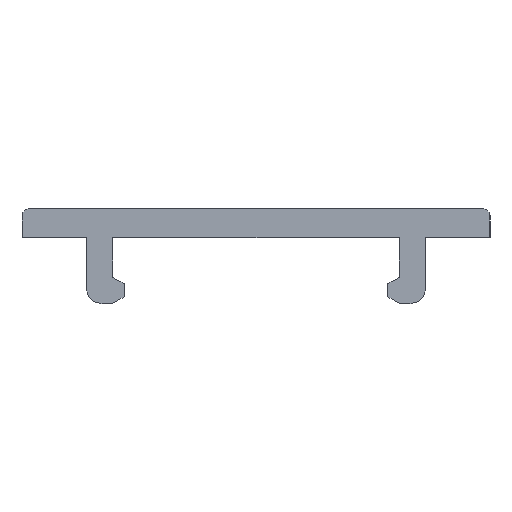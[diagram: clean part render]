
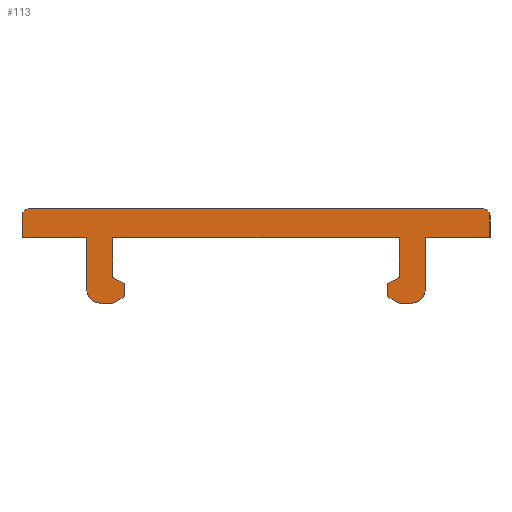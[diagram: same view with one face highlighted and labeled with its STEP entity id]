
A CAD part, left-side view. The second image highlights one B-rep face of the part: STEP entity #113.
In plain terms, the highlighted planar face has unit normal (-1, 0, 0).
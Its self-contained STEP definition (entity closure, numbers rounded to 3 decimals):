
#1 = DIRECTION ( 'NONE',  ( 1., 0., 0. ) ) ;
#2 = CIRCLE ( 'NONE', #462, 1. ) ;
#5 = CARTESIAN_POINT ( 'NONE',  ( 0., 9.8, -2. ) ) ;
#7 = CARTESIAN_POINT ( 'NONE',  ( 0., -15.5, -0.5 ) ) ;
#9 = FACE_OUTER_BOUND ( 'NONE', #425, .T. ) ;
#11 = AXIS2_PLACEMENT_3D ( 'NONE', #100, #104, #428 ) ;
#14 = DIRECTION ( 'NONE',  ( 1., 0., 0. ) ) ;
#15 = ORIENTED_EDGE ( 'NONE', *, *, #123, .F. ) ;
#16 = LINE ( 'NONE', #412, #557 ) ;
#25 = ORIENTED_EDGE ( 'NONE', *, *, #217, .F. ) ;
#26 = DIRECTION ( 'NONE',  ( 0., 0., -1. ) ) ;
#29 = ORIENTED_EDGE ( 'NONE', *, *, #354, .F. ) ;
#31 = EDGE_CURVE ( 'NONE', #283, #186, #532, .T. ) ;
#38 = VERTEX_POINT ( 'NONE', #301 ) ;
#40 = CARTESIAN_POINT ( 'NONE',  ( 0., 16., -2. ) ) ;
#43 = DIRECTION ( 'NONE',  ( 0., 0., 1. ) ) ;
#52 = DIRECTION ( 'NONE',  ( 0., 0., -1. ) ) ;
#55 = CIRCLE ( 'NONE', #560, 0.9 ) ;
#63 = ORIENTED_EDGE ( 'NONE', *, *, #286, .F. ) ;
#65 = CARTESIAN_POINT ( 'NONE',  ( 0., 16., -0.5 ) ) ;
#72 = VERTEX_POINT ( 'NONE', #644 ) ;
#77 = ORIENTED_EDGE ( 'NONE', *, *, #645, .F. ) ;
#82 = DIRECTION ( 'NONE',  ( 0., 0., -1. ) ) ;
#86 = VERTEX_POINT ( 'NONE', #483 ) ;
#88 = LINE ( 'NONE', #539, #278 ) ;
#93 = VERTEX_POINT ( 'NONE', #137 ) ;
#97 = EDGE_CURVE ( 'NONE', #178, #440, #184, .T. ) ;
#100 = CARTESIAN_POINT ( 'NONE',  ( 0., 9.8, -5.6 ) ) ;
#104 = DIRECTION ( 'NONE',  ( 1., 0., 0. ) ) ;
#108 = VECTOR ( 'NONE', #676, 1000. ) ;
#113 = ADVANCED_FACE ( 'NONE', ( #9 ), #516, .F. ) ;
#115 = CARTESIAN_POINT ( 'NONE',  ( 0., 9.8, -2. ) ) ;
#121 = LINE ( 'NONE', #469, #108 ) ;
#123 = EDGE_CURVE ( 'NONE', #359, #178, #487, .T. ) ;
#124 = ORIENTED_EDGE ( 'NONE', *, *, #391, .F. ) ;
#128 = ORIENTED_EDGE ( 'NONE', *, *, #202, .F. ) ;
#129 = LINE ( 'NONE', #612, #674 ) ;
#133 = VECTOR ( 'NONE', #26, 1000. ) ;
#134 = EDGE_CURVE ( 'NONE', #459, #534, #2, .T. ) ;
#137 = CARTESIAN_POINT ( 'NONE',  ( 0., 15.5, 0. ) ) ;
#139 = VECTOR ( 'NONE', #617, 1000. ) ;
#146 = DIRECTION ( 'NONE',  ( 0., 1., 0. ) ) ;
#147 = VERTEX_POINT ( 'NONE', #616 ) ;
#156 = LINE ( 'NONE', #254, #161 ) ;
#157 = CARTESIAN_POINT ( 'NONE',  ( 0., -16., -2. ) ) ;
#161 = VECTOR ( 'NONE', #513, 1000. ) ;
#164 = VERTEX_POINT ( 'NONE', #671 ) ;
#167 = CARTESIAN_POINT ( 'NONE',  ( 0., 16., -0.5 ) ) ;
#178 = VERTEX_POINT ( 'NONE', #572 ) ;
#180 = CARTESIAN_POINT ( 'NONE',  ( 0., 11.6, -2. ) ) ;
#184 = LINE ( 'NONE', #65, #220 ) ;
#186 = VERTEX_POINT ( 'NONE', #157 ) ;
#192 = EDGE_CURVE ( 'NONE', #186, #541, #201, .T. ) ;
#201 = LINE ( 'NONE', #468, #449 ) ;
#202 = EDGE_CURVE ( 'NONE', #72, #147, #290, .T. ) ;
#217 = EDGE_CURVE ( 'NONE', #86, #164, #55, .T. ) ;
#218 = CARTESIAN_POINT ( 'NONE',  ( 0., 15.5, -0.5 ) ) ;
#220 = VECTOR ( 'NONE', #407, 1000. ) ;
#222 = CARTESIAN_POINT ( 'NONE',  ( 0., -16., -0.5 ) ) ;
#243 = ORIENTED_EDGE ( 'NONE', *, *, #31, .F. ) ;
#254 = CARTESIAN_POINT ( 'NONE',  ( 0., -15.5, 0. ) ) ;
#258 = VECTOR ( 'NONE', #547, 1000. ) ;
#259 = EDGE_CURVE ( 'NONE', #534, #359, #403, .T. ) ;
#260 = ORIENTED_EDGE ( 'NONE', *, *, #259, .F. ) ;
#261 = CARTESIAN_POINT ( 'NONE',  ( 0., 9.8, -6.5 ) ) ;
#264 = DIRECTION ( 'NONE',  ( 1., 0., 0. ) ) ;
#273 = DIRECTION ( 'NONE',  ( 0., 0., -1. ) ) ;
#278 = VECTOR ( 'NONE', #389, 1000. ) ;
#280 = DIRECTION ( 'NONE',  ( 1., 0., 0. ) ) ;
#283 = VERTEX_POINT ( 'NONE', #222 ) ;
#285 = ORIENTED_EDGE ( 'NONE', *, *, #192, .F. ) ;
#286 = EDGE_CURVE ( 'NONE', #440, #93, #456, .T. ) ;
#290 = CIRCLE ( 'NONE', #569, 1. ) ;
#301 = CARTESIAN_POINT ( 'NONE',  ( 0., -15.5, 0. ) ) ;
#313 = CARTESIAN_POINT ( 'NONE',  ( 0., 10.6, -5.5 ) ) ;
#315 = CIRCLE ( 'NONE', #367, 0.5 ) ;
#326 = CARTESIAN_POINT ( 'NONE',  ( 0., -9.8, -2. ) ) ;
#332 = EDGE_CURVE ( 'NONE', #447, #564, #448, .T. ) ;
#347 = ORIENTED_EDGE ( 'NONE', *, *, #637, .F. ) ;
#354 = EDGE_CURVE ( 'NONE', #38, #283, #315, .T. ) ;
#359 = VERTEX_POINT ( 'NONE', #590 ) ;
#362 = DIRECTION ( 'NONE',  ( 0., 1., 0. ) ) ;
#365 = CARTESIAN_POINT ( 'NONE',  ( 0., -10.6, -5.5 ) ) ;
#367 = AXIS2_PLACEMENT_3D ( 'NONE', #7, #14, #629 ) ;
#369 = DIRECTION ( 'NONE',  ( 0., 1., 0. ) ) ;
#371 = CARTESIAN_POINT ( 'NONE',  ( 0., -11.6, -2. ) ) ;
#374 = DIRECTION ( 'NONE',  ( 1., 0., 0. ) ) ;
#389 = DIRECTION ( 'NONE',  ( 0., 1., 0. ) ) ;
#391 = EDGE_CURVE ( 'NONE', #589, #459, #88, .T. ) ;
#395 = VECTOR ( 'NONE', #146, 1000. ) ;
#397 = AXIS2_PLACEMENT_3D ( 'NONE', #218, #280, #538 ) ;
#403 = LINE ( 'NONE', #180, #258 ) ;
#406 = EDGE_CURVE ( 'NONE', #564, #589, #551, .T. ) ;
#407 = DIRECTION ( 'NONE',  ( 0., 0., 1. ) ) ;
#409 = ORIENTED_EDGE ( 'NONE', *, *, #591, .F. ) ;
#412 = CARTESIAN_POINT ( 'NONE',  ( 0., -9.8, -2. ) ) ;
#415 = CARTESIAN_POINT ( 'NONE',  ( 0., 9.8, -4.7 ) ) ;
#425 = EDGE_LOOP ( 'NONE', ( #285, #243, #29, #77, #63, #542, #15, #260, #521, #124, #491, #451, #604, #495, #25, #409, #128, #347 ) ) ;
#428 = DIRECTION ( 'NONE',  ( 0., 0., -1. ) ) ;
#430 = LINE ( 'NONE', #570, #139 ) ;
#440 = VERTEX_POINT ( 'NONE', #167 ) ;
#447 = VERTEX_POINT ( 'NONE', #5 ) ;
#448 = LINE ( 'NONE', #115, #470 ) ;
#449 = VECTOR ( 'NONE', #369, 1000. ) ;
#451 = ORIENTED_EDGE ( 'NONE', *, *, #332, .F. ) ;
#456 = CIRCLE ( 'NONE', #397, 0.5 ) ;
#459 = VERTEX_POINT ( 'NONE', #621 ) ;
#462 = AXIS2_PLACEMENT_3D ( 'NONE', #313, #264, #43 ) ;
#468 = CARTESIAN_POINT ( 'NONE',  ( 0., -16., -2. ) ) ;
#469 = CARTESIAN_POINT ( 'NONE',  ( 0., -9.8, -2. ) ) ;
#470 = VECTOR ( 'NONE', #52, 1000. ) ;
#476 = DIRECTION ( 'NONE',  ( 0., 0., -1. ) ) ;
#483 = CARTESIAN_POINT ( 'NONE',  ( 0., -9.8, -6.5 ) ) ;
#487 = LINE ( 'NONE', #40, #395 ) ;
#491 = ORIENTED_EDGE ( 'NONE', *, *, #406, .F. ) ;
#495 = ORIENTED_EDGE ( 'NONE', *, *, #525, .F. ) ;
#502 = VERTEX_POINT ( 'NONE', #326 ) ;
#513 = DIRECTION ( 'NONE',  ( 0., -1., 0. ) ) ;
#516 = PLANE ( 'NONE',  #653 ) ;
#521 = ORIENTED_EDGE ( 'NONE', *, *, #134, .F. ) ;
#525 = EDGE_CURVE ( 'NONE', #164, #502, #121, .T. ) ;
#532 = LINE ( 'NONE', #654, #133 ) ;
#534 = VERTEX_POINT ( 'NONE', #628 ) ;
#538 = DIRECTION ( 'NONE',  ( 0., 0., 1. ) ) ;
#539 = CARTESIAN_POINT ( 'NONE',  ( 0., 10.6, -6.5 ) ) ;
#541 = VERTEX_POINT ( 'NONE', #371 ) ;
#542 = ORIENTED_EDGE ( 'NONE', *, *, #97, .F. ) ;
#547 = DIRECTION ( 'NONE',  ( 0., 0., 1. ) ) ;
#551 = CIRCLE ( 'NONE', #11, 0.9 ) ;
#557 = VECTOR ( 'NONE', #362, 1000. ) ;
#560 = AXIS2_PLACEMENT_3D ( 'NONE', #579, #1, #627 ) ;
#562 = DIRECTION ( 'NONE',  ( 1., 0., 0. ) ) ;
#564 = VERTEX_POINT ( 'NONE', #415 ) ;
#569 = AXIS2_PLACEMENT_3D ( 'NONE', #623, #374, #273 ) ;
#570 = CARTESIAN_POINT ( 'NONE',  ( 0., -10.6, -6.5 ) ) ;
#572 = CARTESIAN_POINT ( 'NONE',  ( 0., 16., -2. ) ) ;
#579 = CARTESIAN_POINT ( 'NONE',  ( 0., -9.8, -5.6 ) ) ;
#589 = VERTEX_POINT ( 'NONE', #261 ) ;
#590 = CARTESIAN_POINT ( 'NONE',  ( 0., 11.6, -2. ) ) ;
#591 = EDGE_CURVE ( 'NONE', #147, #86, #430, .T. ) ;
#604 = ORIENTED_EDGE ( 'NONE', *, *, #642, .F. ) ;
#612 = CARTESIAN_POINT ( 'NONE',  ( 0., -11.6, -2. ) ) ;
#616 = CARTESIAN_POINT ( 'NONE',  ( 0., -10.6, -6.5 ) ) ;
#617 = DIRECTION ( 'NONE',  ( 0., 1., 0. ) ) ;
#621 = CARTESIAN_POINT ( 'NONE',  ( 0., 10.6, -6.5 ) ) ;
#623 = CARTESIAN_POINT ( 'NONE',  ( 0., -10.6, -5.5 ) ) ;
#627 = DIRECTION ( 'NONE',  ( 0., 0., 1. ) ) ;
#628 = CARTESIAN_POINT ( 'NONE',  ( 0., 11.6, -5.5 ) ) ;
#629 = DIRECTION ( 'NONE',  ( 0., 0., -1. ) ) ;
#637 = EDGE_CURVE ( 'NONE', #541, #72, #129, .T. ) ;
#642 = EDGE_CURVE ( 'NONE', #502, #447, #16, .T. ) ;
#644 = CARTESIAN_POINT ( 'NONE',  ( 0., -11.6, -5.5 ) ) ;
#645 = EDGE_CURVE ( 'NONE', #93, #38, #156, .T. ) ;
#653 = AXIS2_PLACEMENT_3D ( 'NONE', #365, #562, #476 ) ;
#654 = CARTESIAN_POINT ( 'NONE',  ( 0., -16., -0.5 ) ) ;
#671 = CARTESIAN_POINT ( 'NONE',  ( 0., -9.8, -4.7 ) ) ;
#674 = VECTOR ( 'NONE', #82, 1000. ) ;
#676 = DIRECTION ( 'NONE',  ( 0., 0., 1. ) ) ;
